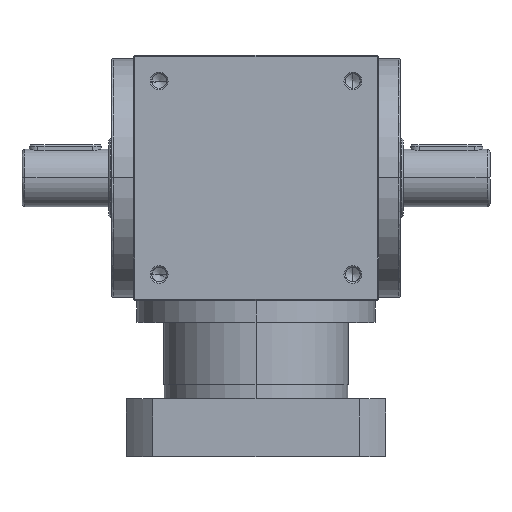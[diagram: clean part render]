
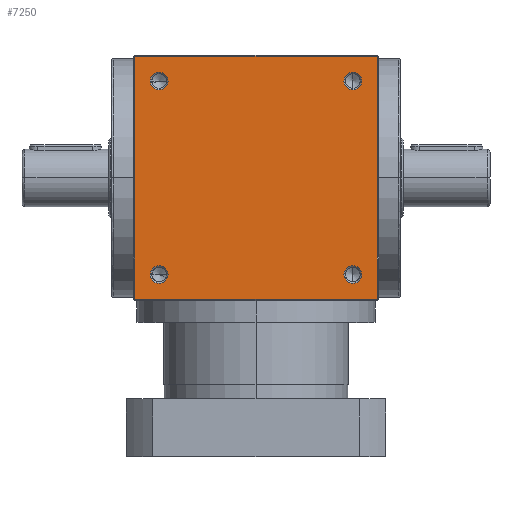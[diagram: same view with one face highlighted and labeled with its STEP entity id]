
A CAD part, top view. The second image highlights one B-rep face of the part: STEP entity #7250.
In plain terms, the highlighted planar face has unit normal (0, 0, 1).
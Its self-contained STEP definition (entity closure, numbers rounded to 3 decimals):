
#55 = CARTESIAN_POINT ( 'NONE',  ( 60.9, 67., 85. ) ) ;
#84 = EDGE_CURVE ( 'NONE', #3352, #4922, #386, .T. ) ;
#134 = VERTEX_POINT ( 'NONE', #8751 ) ;
#229 = EDGE_CURVE ( 'NONE', #8493, #7831, #7180, .T. ) ;
#366 = CARTESIAN_POINT ( 'NONE',  ( -60.9, -67., 85. ) ) ;
#386 = LINE ( 'NONE', #437, #6725 ) ;
#437 = CARTESIAN_POINT ( 'NONE',  ( 0., 84., 85. ) ) ;
#565 = CARTESIAN_POINT ( 'NONE',  ( 67., 67., 85. ) ) ;
#698 = ORIENTED_EDGE ( 'NONE', *, *, #7235, .F. ) ;
#728 = ORIENTED_EDGE ( 'NONE', *, *, #6845, .T. ) ;
#749 = VERTEX_POINT ( 'NONE', #5727 ) ;
#846 = VERTEX_POINT ( 'NONE', #1381 ) ;
#1118 = DIRECTION ( 'NONE',  ( 1., 0., 0. ) ) ;
#1147 = CARTESIAN_POINT ( 'NONE',  ( -84., 84., 85. ) ) ;
#1231 = DIRECTION ( 'NONE',  ( 0., 0., 1. ) ) ;
#1356 = DIRECTION ( 'NONE',  ( 0., -1., 0. ) ) ;
#1381 = CARTESIAN_POINT ( 'NONE',  ( -60.9, 67., 85. ) ) ;
#1560 = CIRCLE ( 'NONE', #8558, 6.1 ) ;
#1733 = CIRCLE ( 'NONE', #3003, 6.1 ) ;
#1980 = CARTESIAN_POINT ( 'NONE',  ( 67., -67., 85. ) ) ;
#1982 = EDGE_CURVE ( 'NONE', #4922, #3873, #9779, .T. ) ;
#2001 = PLANE ( 'NONE',  #8867 ) ;
#2229 = DIRECTION ( 'NONE',  ( 1., 0., 0. ) ) ;
#2246 = DIRECTION ( 'NONE',  ( 1., 0., 0. ) ) ;
#2679 = CIRCLE ( 'NONE', #6481, 6.1 ) ;
#2701 = DIRECTION ( 'NONE',  ( 0., 0., -1. ) ) ;
#2750 = DIRECTION ( 'NONE',  ( 0., 0., 1. ) ) ;
#2843 = CARTESIAN_POINT ( 'NONE',  ( 73.1, -67., 85. ) ) ;
#3003 = AXIS2_PLACEMENT_3D ( 'NONE', #9800, #5118, #2229 ) ;
#3136 = CIRCLE ( 'NONE', #5074, 6.1 ) ;
#3155 = AXIS2_PLACEMENT_3D ( 'NONE', #565, #3618, #9733 ) ;
#3352 = VERTEX_POINT ( 'NONE', #4933 ) ;
#3379 = DIRECTION ( 'NONE',  ( 1., 0., 0. ) ) ;
#3415 = LINE ( 'NONE', #8746, #8075 ) ;
#3421 = DIRECTION ( 'NONE',  ( -1., 0., 0. ) ) ;
#3433 = CARTESIAN_POINT ( 'NONE',  ( 0., -84., 85. ) ) ;
#3520 = AXIS2_PLACEMENT_3D ( 'NONE', #9114, #5894, #4308 ) ;
#3559 = VERTEX_POINT ( 'NONE', #366 ) ;
#3603 = DIRECTION ( 'NONE',  ( -1., 0., 0. ) ) ;
#3618 = DIRECTION ( 'NONE',  ( 0., 0., 1. ) ) ;
#3657 = FACE_BOUND ( 'NONE', #3839, .T. ) ;
#3668 = CARTESIAN_POINT ( 'NONE',  ( 60.9, -67., 85. ) ) ;
#3680 = EDGE_LOOP ( 'NONE', ( #9218, #7770 ) ) ;
#3839 = EDGE_LOOP ( 'NONE', ( #698, #8089 ) ) ;
#3873 = VERTEX_POINT ( 'NONE', #6630 ) ;
#4176 = AXIS2_PLACEMENT_3D ( 'NONE', #1980, #1231, #1118 ) ;
#4187 = ORIENTED_EDGE ( 'NONE', *, *, #6220, .F. ) ;
#4308 = DIRECTION ( 'NONE',  ( 1., 0., 0. ) ) ;
#4435 = ORIENTED_EDGE ( 'NONE', *, *, #1982, .T. ) ;
#4561 = ORIENTED_EDGE ( 'NONE', *, *, #7439, .F. ) ;
#4855 = VECTOR ( 'NONE', #1356, 1000. ) ;
#4922 = VERTEX_POINT ( 'NONE', #1147 ) ;
#4933 = CARTESIAN_POINT ( 'NONE',  ( 84., 84., 85. ) ) ;
#5074 = AXIS2_PLACEMENT_3D ( 'NONE', #9123, #7483, #2246 ) ;
#5118 = DIRECTION ( 'NONE',  ( 0., 0., 1. ) ) ;
#5272 = DIRECTION ( 'NONE',  ( 1., 0., 0. ) ) ;
#5293 = ORIENTED_EDGE ( 'NONE', *, *, #8596, .F. ) ;
#5321 = DIRECTION ( 'NONE',  ( 0., 0., 1. ) ) ;
#5607 = VECTOR ( 'NONE', #3379, 1000. ) ;
#5727 = CARTESIAN_POINT ( 'NONE',  ( 73.1, 67., 85. ) ) ;
#5794 = DIRECTION ( 'NONE',  ( 1., 0., 0. ) ) ;
#5894 = DIRECTION ( 'NONE',  ( 0., 0., 1. ) ) ;
#5951 = CARTESIAN_POINT ( 'NONE',  ( -84., 0., 85. ) ) ;
#6220 = EDGE_CURVE ( 'NONE', #749, #7631, #7810, .T. ) ;
#6306 = DIRECTION ( 'NONE',  ( 0., 0., 1. ) ) ;
#6411 = EDGE_LOOP ( 'NONE', ( #8157, #728, #7070, #4435 ) ) ;
#6481 = AXIS2_PLACEMENT_3D ( 'NONE', #8078, #2750, #5794 ) ;
#6493 = FACE_BOUND ( 'NONE', #8794, .T. ) ;
#6572 = EDGE_LOOP ( 'NONE', ( #4187, #9811 ) ) ;
#6617 = EDGE_CURVE ( 'NONE', #3873, #134, #7163, .T. ) ;
#6630 = CARTESIAN_POINT ( 'NONE',  ( -84., -84., 85. ) ) ;
#6725 = VECTOR ( 'NONE', #3421, 1000. ) ;
#6845 = EDGE_CURVE ( 'NONE', #134, #3352, #3415, .T. ) ;
#7070 = ORIENTED_EDGE ( 'NONE', *, *, #84, .T. ) ;
#7163 = LINE ( 'NONE', #3433, #5607 ) ;
#7180 = CIRCLE ( 'NONE', #4176, 6.1 ) ;
#7235 = EDGE_CURVE ( 'NONE', #7831, #8493, #2679, .T. ) ;
#7250 = ADVANCED_FACE ( 'NONE', ( #8121, #6493, #9582, #8831, #3657 ), #2001, .F. ) ;
#7394 = CARTESIAN_POINT ( 'NONE',  ( -73.1, -67., 85. ) ) ;
#7439 = EDGE_CURVE ( 'NONE', #8592, #846, #7767, .T. ) ;
#7469 = CIRCLE ( 'NONE', #3155, 6.1 ) ;
#7483 = DIRECTION ( 'NONE',  ( 0., 0., 1. ) ) ;
#7631 = VERTEX_POINT ( 'NONE', #55 ) ;
#7746 = AXIS2_PLACEMENT_3D ( 'NONE', #9388, #6306, #8633 ) ;
#7767 = CIRCLE ( 'NONE', #7746, 6.1 ) ;
#7770 = ORIENTED_EDGE ( 'NONE', *, *, #8303, .F. ) ;
#7810 = CIRCLE ( 'NONE', #3520, 6.1 ) ;
#7831 = VERTEX_POINT ( 'NONE', #2843 ) ;
#7983 = EDGE_CURVE ( 'NONE', #3559, #8533, #3136, .T. ) ;
#8075 = VECTOR ( 'NONE', #9506, 1000. ) ;
#8078 = CARTESIAN_POINT ( 'NONE',  ( 67., -67., 85. ) ) ;
#8089 = ORIENTED_EDGE ( 'NONE', *, *, #229, .F. ) ;
#8121 = FACE_OUTER_BOUND ( 'NONE', #6411, .T. ) ;
#8146 = CARTESIAN_POINT ( 'NONE',  ( -73.1, 67., 85. ) ) ;
#8157 = ORIENTED_EDGE ( 'NONE', *, *, #6617, .T. ) ;
#8172 = CARTESIAN_POINT ( 'NONE',  ( 0., 0., 85. ) ) ;
#8303 = EDGE_CURVE ( 'NONE', #8533, #3559, #1560, .T. ) ;
#8493 = VERTEX_POINT ( 'NONE', #3668 ) ;
#8533 = VERTEX_POINT ( 'NONE', #7394 ) ;
#8534 = EDGE_CURVE ( 'NONE', #7631, #749, #7469, .T. ) ;
#8558 = AXIS2_PLACEMENT_3D ( 'NONE', #9055, #5321, #5272 ) ;
#8592 = VERTEX_POINT ( 'NONE', #8146 ) ;
#8596 = EDGE_CURVE ( 'NONE', #846, #8592, #1733, .T. ) ;
#8633 = DIRECTION ( 'NONE',  ( 1., 0., 0. ) ) ;
#8746 = CARTESIAN_POINT ( 'NONE',  ( 84., 0., 85. ) ) ;
#8751 = CARTESIAN_POINT ( 'NONE',  ( 84., -84., 85. ) ) ;
#8794 = EDGE_LOOP ( 'NONE', ( #5293, #4561 ) ) ;
#8831 = FACE_BOUND ( 'NONE', #3680, .T. ) ;
#8867 = AXIS2_PLACEMENT_3D ( 'NONE', #8172, #2701, #3603 ) ;
#9055 = CARTESIAN_POINT ( 'NONE',  ( -67., -67., 85. ) ) ;
#9114 = CARTESIAN_POINT ( 'NONE',  ( 67., 67., 85. ) ) ;
#9123 = CARTESIAN_POINT ( 'NONE',  ( -67., -67., 85. ) ) ;
#9218 = ORIENTED_EDGE ( 'NONE', *, *, #7983, .F. ) ;
#9388 = CARTESIAN_POINT ( 'NONE',  ( -67., 67., 85. ) ) ;
#9506 = DIRECTION ( 'NONE',  ( 0., 1., 0. ) ) ;
#9582 = FACE_BOUND ( 'NONE', #6572, .T. ) ;
#9733 = DIRECTION ( 'NONE',  ( 1., 0., 0. ) ) ;
#9779 = LINE ( 'NONE', #5951, #4855 ) ;
#9800 = CARTESIAN_POINT ( 'NONE',  ( -67., 67., 85. ) ) ;
#9811 = ORIENTED_EDGE ( 'NONE', *, *, #8534, .F. ) ;
